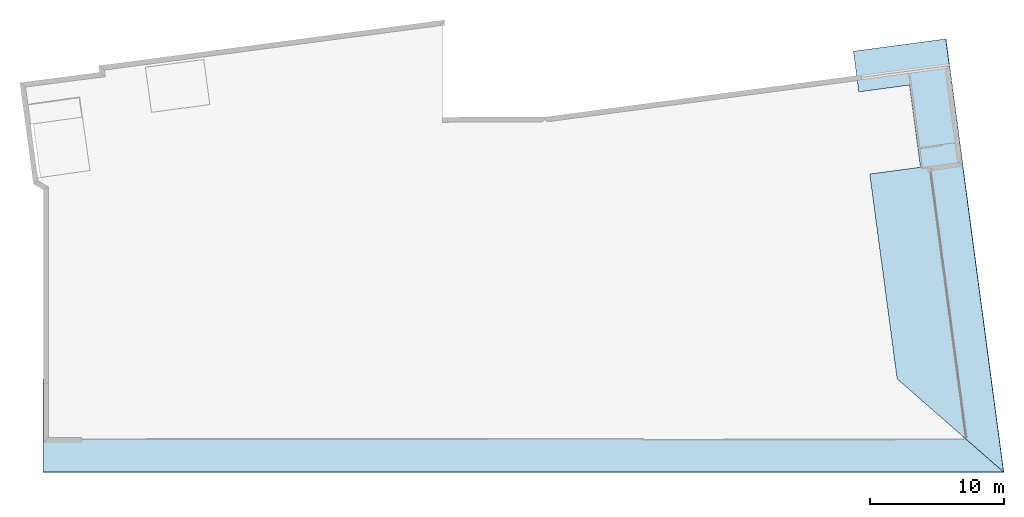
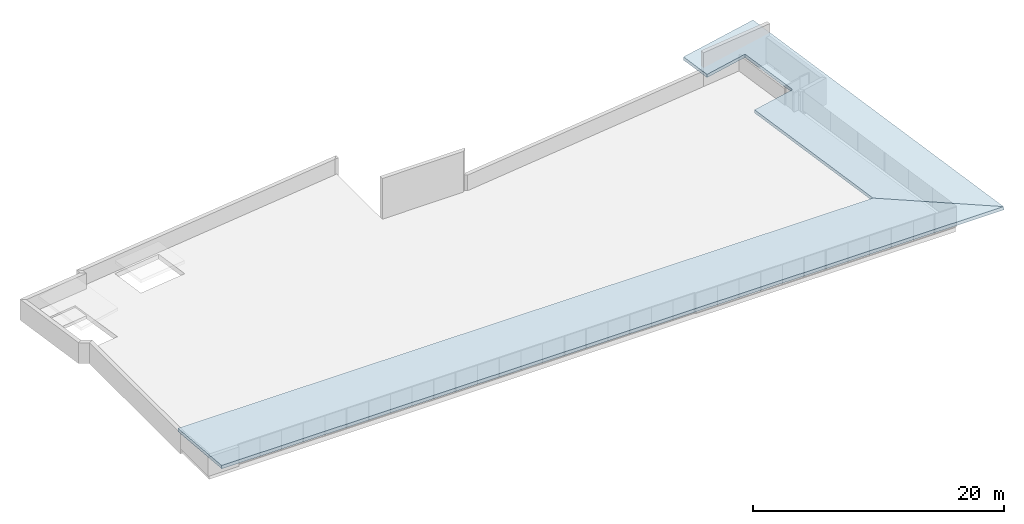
# One storey, part 4 of 7: 2 slabs.
"""IFC2X3 building model written with IfcOpenShell, lengths in metres."""

from ifc_helpers import new_model, entity, si_unit, converted_unit, money_unit, direction, frame, origin_with_axes, place, context, subcontext, project, spatial, faceted_brep, material, material_list, type_object, element, save


model = new_model("IFC2X3")

# Units and contexts
model_context = context("Model", 3, precision=1e-05, world=origin_with_axes(), true_north=direction((0.0, 1.0)))
body_context = subcontext(model_context, "Body", "Model", "MODEL_VIEW")
ifc_project = project(units=[si_unit("LENGTHUNIT", "METRE"), si_unit("AREAUNIT", "SQUARE_METRE"), si_unit("VOLUMEUNIT", "CUBIC_METRE"), converted_unit("PLANEANGLEUNIT", "DEGREE", entity("IfcPlaneAngleMeasure", 0.0174532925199), si_unit("PLANEANGLEUNIT", "RADIAN"), dimensions=[0, 0, 0, 0, 0, 0, 0]), si_unit("SOLIDANGLEUNIT", "STERADIAN"), money_unit("EUR"), converted_unit("TIMEUNIT", "Year", entity("IfcTimeMeasure", 31556926.0), si_unit("TIMEUNIT", "SECOND"), dimensions=[0, 0, 0, 0, 0, 0, 0]), si_unit("MASSUNIT", "GRAM"), si_unit("THERMODYNAMICTEMPERATUREUNIT", "DEGREE_CELSIUS"), si_unit("LUMINOUSINTENSITYUNIT", "LUMEN")], contexts=[model_context])

# Site, building, storey
site_placement = place(None, origin_with_axes())
site = spatial("IfcSite", under=ifc_project, at=site_placement, Name="Undefined", CompositionType="ELEMENT")
building_placement = place(site_placement, origin_with_axes())
building = spatial("IfcBuilding", under=site, at=building_placement, Name="Undefined", CompositionType="ELEMENT")
storey_placement = place(building_placement, frame((0.0, 0.0, 17.4), z_axis=(0.0, 0.0, 1.0), x_axis=(1.0, 0.0, 0.0)))
storey = spatial("IfcBuildingStorey", under=building, at=storey_placement, Name="Toiture", CompositionType="ELEMENT", Elevation=17.4)

# Slabs
ifc_material_1 = material(Name="Finition int - Enduit pl\x89tre")
ifc_material_2 = material(Name="Bois - OSB 01")
ifc_material_3 = material(Name="Toiture - Chevronnage & Laine de roche")
ifc_material_4 = material(Name="Etanch\x8eit\x8e - Pare pluie")
ifc_material_5 = material(Name="Divers - Vide")
ifc_material_6 = material(Name="Toiture - Tuile")
ifc_material_list = material_list([ifc_material_1, ifc_material_2, ifc_material_3, ifc_material_2, ifc_material_4, ifc_material_5, ifc_material_6])
slab_type = type_object("IfcSlabType", Name="7.2-Toiture: Couverture + panneaux sandwich 306", PredefinedType="ROOF")
slab_1_placement = place(storey_placement, frame((17.1691930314, -0.249999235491, 1.90207035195), z_axis=(0.0, 0.0, 1.0), x_axis=(1.0, 0.0, 0.0)))
element("IfcSlab", 1, at=slab_1_placement, inside=storey, type_object=slab_type, material=ifc_material_list, Name="Roof", ObjectType="ROOF", PredefinedType="ROOF", context=body_context, shape_type="Brep", body=[
    faceted_brep([(-17.5798430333, 4.57152976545, -0.0927881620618), (-17.5798430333, -2.39999970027, 0.517141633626), (54.2403826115, -2.39999970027, 0.517141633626), (46.2768642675, 4.57152976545, -0.0927881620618), (-17.5798430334, 4.56864885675, -0.152765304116), (-17.5798430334, -2.4052290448, 0.457369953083), (54.2463560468, -2.4052290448, 0.457369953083), (46.2801551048, 4.56864885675, -0.152765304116)], [[[0, 1, 2, 3]], [[0, 4, 5, 1]], [[1, 5, 6, 2]], [[2, 6, 7, 3]], [[3, 7, 4, 0]], [[4, 7, 6, 5]]]),
    faceted_brep([(46.2801551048, 4.56864885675, -0.152765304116), (46.2821296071, 4.56692031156, -0.188751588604), (-17.5798430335, 4.56692031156, -0.188751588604), (-17.5798430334, 4.56864885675, -0.152765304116), (54.2463560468, -2.4052290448, 0.457369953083), (54.2499401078, -2.40836665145, 0.4215069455), (-17.5798430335, -2.40836665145, 0.4215069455), (-17.5798430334, -2.4052290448, 0.457369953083)], [[[0, 1, 2, 3]], [[4, 5, 1, 0]], [[2, 1, 5, 6]], [[3, 2, 6, 7]], [[3, 7, 4, 0]], [[7, 6, 5, 4]]]),
    faceted_brep([(46.2821296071, 4.56692031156, -0.188751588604), (46.2824038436, 4.56668023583, -0.193749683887), (-17.5798430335, 4.56668023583, -0.193749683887), (-17.5798430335, 4.56692031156, -0.188751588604), (54.2499401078, -2.40836665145, 0.4215069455), (54.2504378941, -2.40880243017, 0.41652597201), (-17.5798430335, -2.40880243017, 0.41652597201), (-17.5798430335, -2.40836665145, 0.4215069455)], [[[0, 1, 2, 3]], [[4, 5, 1, 0]], [[2, 1, 5, 6]], [[3, 2, 6, 7]], [[3, 7, 4, 0]], [[7, 6, 5, 4]]]),
    faceted_brep([(46.2824038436, 4.56668023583, -0.193749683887), (46.2832265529, 4.56596000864, -0.208743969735), (-17.5798430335, 4.56596000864, -0.208743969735), (-17.5798430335, 4.56668023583, -0.193749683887), (54.2504378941, -2.40880243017, 0.41652597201), (54.251931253, -2.41010976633, 0.40158305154), (-17.5798430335, -2.41010976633, 0.40158305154), (-17.5798430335, -2.40880243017, 0.41652597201)], [[[0, 1, 2, 3]], [[4, 5, 1, 0]], [[2, 1, 5, 6]], [[3, 2, 6, 7]], [[3, 7, 4, 0]], [[7, 6, 5, 4]]]),
    faceted_brep([(46.2832265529, 4.56596000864, -0.208743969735), (46.2920021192, 4.55827758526, -0.368683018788), (-17.5798430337, 4.55827758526, -0.368683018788), (-17.5798430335, 4.56596000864, -0.208743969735), (54.251931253, -2.41010976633, 0.40158305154), (54.267860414, -2.42405468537, 0.242191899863), (-17.5798430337, -2.42405468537, 0.242191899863), (-17.5798430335, -2.41010976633, 0.40158305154)], [[[0, 1, 2, 3]], [[4, 5, 1, 0]], [[2, 1, 5, 6]], [[3, 2, 6, 7]], [[3, 7, 4, 0]], [[7, 6, 5, 4]]]),
    faceted_brep([(46.2920021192, 4.55827758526, -0.368683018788), (46.2928248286, 4.55755735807, -0.383677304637), (-17.5798430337, 4.55755735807, -0.383677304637), (-17.5798430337, 4.55827758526, -0.368683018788), (54.267860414, -2.42405468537, 0.242191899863), (54.2693537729, -2.42536202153, 0.227248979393), (-17.5798430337, -2.42536202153, 0.227248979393), (-17.5798430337, -2.42405468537, 0.242191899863)], [[[0, 1, 2, 3]], [[4, 5, 1, 0]], [[2, 1, 5, 6]], [[3, 2, 6, 7]], [[3, 7, 4, 0]], [[7, 6, 5, 4]]]),
    faceted_brep([(46.2928248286, 4.55755735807, -0.383677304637), (46.2936475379, 4.55683713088, -0.398671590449), (-17.5798430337, 4.55683713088, -0.398671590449), (-17.5798430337, 4.55755735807, -0.383677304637), (54.2693537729, -2.42536202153, 0.227248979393), (54.2708471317, -2.42666935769, 0.212306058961), (-17.5798430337, -2.42666935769, 0.212306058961), (-17.5798430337, -2.42536202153, 0.227248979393)], [[[0, 1, 2, 3]], [[4, 5, 1, 0]], [[1, 5, 6, 2]], [[3, 2, 6, 7]], [[3, 7, 4, 0]], [[7, 6, 5, 4]]]),
])
slab_2_placement = place(storey_placement, frame((63.447976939, 4.31985001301, 1.50225996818), z_axis=(0.0, 0.0, 1.0), x_axis=(-0.13225639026, 0.991215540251, 0.0)))
element("IfcSlab", 2, at=slab_2_placement, inside=storey, type_object=slab_type, material=ifc_material_list, Name="Roof", ObjectType="ROOF", PredefinedType="ROOF", context=body_context, shape_type="Brep", body=[
    faceted_brep([(24.7053769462, -6.96983545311, 0.916950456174), (24.7090931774, 0.0, 0.307168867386), (21.6429063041, 0.0, 0.307168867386), (21.6429063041, -3.82218417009, 0.641566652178), (15.4491384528, -3.82218417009, 0.641566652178), (15.4491384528, 0.0, 0.307168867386), (0.0, 0.0, 0.307168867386), (-7.96159489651, -6.96985329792, 0.916952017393), (24.7053769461, -6.97506479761, 0.85717877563), (24.7090959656, 0.0, 0.246939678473), (21.6429063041, 0.0, 0.246939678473), (21.6429063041, -3.82218417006, 0.581337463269), (15.4491384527, -3.82218417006, 0.581337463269), (15.4491384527, 0.0, 0.246939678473), (-2.78523515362e-09, 0.0, 0.246939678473), (-7.96756833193, -6.9750826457, 0.857180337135)], [[[0, 1, 2, 3, 4, 5, 6, 7]], [[0, 8, 9, 1]], [[1, 9, 10, 2]], [[2, 10, 11, 3]], [[3, 11, 12, 4]], [[4, 12, 13, 5]], [[5, 13, 14, 6]], [[6, 14, 15, 7]], [[7, 15, 8, 0]], [[8, 15, 14, 13, 12, 11, 10, 9]]]),
    faceted_brep([(-7.96756833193, -6.9750826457, 0.857180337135), (-7.97115239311, -6.97822025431, 0.821317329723), (24.7053769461, -6.97820240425, 0.821315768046), (24.7053769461, -6.97506479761, 0.85717877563), (-2.78523515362e-09, 0.0, 0.246939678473), (-4.45637748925e-09, 1.24686039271e-10, 0.210802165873), (15.4491384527, 1.24686039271e-10, 0.210802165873), (15.4491384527, -3.82218417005, 0.545199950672), (21.6429063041, -3.82218417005, 0.545199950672), (21.6429063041, 1.24686039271e-10, 0.210802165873), (24.7090976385, 1.24686039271e-10, 0.210802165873), (24.7090959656, 0.0, 0.246939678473), (21.6429063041, 0.0, 0.246939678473), (21.6429063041, -3.82218417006, 0.581337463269), (15.4491384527, -3.82218417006, 0.581337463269), (15.4491384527, 0.0, 0.246939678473)], [[[0, 1, 2, 3]], [[4, 5, 1, 0]], [[2, 1, 5, 6, 7, 8, 9, 10]], [[3, 2, 10, 11]], [[3, 11, 12, 13, 14, 15, 4, 0]], [[15, 6, 5, 4]], [[14, 7, 6, 15]], [[13, 8, 7, 14]], [[12, 9, 8, 13]], [[11, 10, 9, 12]]]),
    faceted_brep([(-7.97115239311, -6.97822025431, 0.821317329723), (-7.9716501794, -6.9786560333, 0.816336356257), (24.7053769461, -6.97863818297, 0.816334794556), (24.7053769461, -6.97820240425, 0.821315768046), (-4.45637837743e-09, 1.24686039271e-10, 0.210802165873), (-4.68848249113e-09, 1.31180399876e-10, 0.205783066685), (15.4491384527, 1.31180399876e-10, 0.205783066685), (15.4491384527, -3.82218417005, 0.540180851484), (21.642906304, -3.82218417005, 0.540180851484), (21.642906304, 1.31180399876e-10, 0.205783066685), (24.7090978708, 1.31180399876e-10, 0.205783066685), (24.7090976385, 1.24686039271e-10, 0.210802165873), (21.6429063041, 1.24686039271e-10, 0.210802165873), (21.6429063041, -3.82218417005, 0.545199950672), (15.4491384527, -3.82218417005, 0.545199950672), (15.4491384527, 1.24686039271e-10, 0.210802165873)], [[[0, 1, 2, 3]], [[4, 5, 1, 0]], [[2, 1, 5, 6, 7, 8, 9, 10]], [[3, 2, 10, 11]], [[3, 11, 12, 13, 14, 15, 4, 0]], [[15, 6, 5, 4]], [[14, 7, 6, 15]], [[13, 8, 7, 14]], [[12, 9, 8, 13]], [[11, 10, 9, 12]]]),
    faceted_brep([(-7.9716501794, -6.9786560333, 0.816336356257), (-7.97314353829, -6.97996337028, 0.801393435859), (24.7053769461, -6.97994551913, 0.801391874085), (24.7053769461, -6.97863818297, 0.816334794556), (-4.68848249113e-09, 1.31180399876e-10, 0.205783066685), (-5.38479039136e-09, 1.50663481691e-10, 0.19072576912), (15.4491384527, 1.50663481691e-10, 0.19072576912), (15.4491384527, -3.82218417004, 0.52512355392), (21.642906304, -3.82218417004, 0.52512355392), (21.642906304, 1.50670587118e-10, 0.19072576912), (24.7090985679, 1.50663481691e-10, 0.19072576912), (24.7090978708, 1.31180399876e-10, 0.205783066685), (21.642906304, 1.31180399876e-10, 0.205783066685), (21.642906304, -3.82218417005, 0.540180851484), (15.4491384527, -3.82218417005, 0.540180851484), (15.4491384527, 1.31180399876e-10, 0.205783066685)], [[[0, 1, 2, 3]], [[4, 5, 1, 0]], [[2, 1, 5, 6, 7, 8, 9, 10]], [[3, 2, 10, 11]], [[3, 11, 12, 13, 14, 15, 4, 0]], [[15, 6, 5, 4]], [[14, 7, 6, 15]], [[13, 8, 7, 14]], [[12, 9, 8, 13]], [[11, 10, 9, 12]]]),
    faceted_brep([(-7.97314353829, -6.97996337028, 0.801393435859), (-7.98907269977, -6.99390829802, 0.642002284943), (24.7053769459, -6.99389043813, 0.642000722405), (24.7053769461, -6.97994551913, 0.801391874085), (-5.38479039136e-09, 1.50663481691e-10, 0.19072576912), (-1.28120900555e-08, 3.58490126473e-10, 0.0301145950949), (15.4491384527, 3.58490126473e-10, 0.0301145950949), (15.4491384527, -3.82218416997, 0.364512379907), (21.642906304, -3.82218416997, 0.364512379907), (21.642906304, 3.58490126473e-10, 0.0301145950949), (24.709106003, 3.58490126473e-10, 0.0301145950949), (24.7090985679, 1.50663481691e-10, 0.19072576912), (21.642906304, 1.50670587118e-10, 0.19072576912), (21.642906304, -3.82218417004, 0.52512355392), (15.4491384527, -3.82218417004, 0.52512355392), (15.4491384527, 1.50663481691e-10, 0.19072576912)], [[[0, 1, 2, 3]], [[4, 5, 1, 0]], [[2, 1, 5, 6, 7, 8, 9, 10]], [[3, 2, 10, 11]], [[3, 11, 12, 13, 14, 15, 4, 0]], [[15, 6, 5, 4]], [[14, 7, 6, 15]], [[13, 8, 7, 14]], [[12, 9, 8, 13]], [[11, 10, 9, 12]]]),
    faceted_brep([(-4.77312905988, -4.6898515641, 0.425366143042), (-4.77312912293, -4.3348515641, 0.39430766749), (-4.77312912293, -4.3348515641, 0.409364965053), (-4.77312905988, -4.6898515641, 0.440423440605), (15.0619306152, -4.68984804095, 0.425365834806), (15.0876329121, -6.95934121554, 0.623920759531), (22.8458478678, -6.96696522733, 0.624587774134), (22.8608478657, -6.96697322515, 0.624588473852), (22.8634509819, -2.08479803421, 0.197453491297), (24.6330998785, -1.74395362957, 0.167633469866), (24.6189151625, -1.67030721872, 0.161190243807), (22.8634917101, -2.00841172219, 0.190770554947), (22.8637409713, -1.54091948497, 0.149870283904), (24.7082851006, -1.54091948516, 0.149870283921), (24.7053769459, -6.99519777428, 0.627057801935), (-7.99056605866, -6.995215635, 0.627059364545), (-1.3508398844e-08, 3.77973208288e-10, 0.0150572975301), (15.4491384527, 3.77973208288e-10, 0.0150572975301), (15.4491384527, -3.82218416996, 0.349455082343), (21.642906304, -3.82218416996, 0.349455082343), (21.642906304, 3.77980313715e-10, 0.0150572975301), (24.7091067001, 3.7796610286e-10, 0.0150572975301), (24.7083022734, -1.50871167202, 0.147052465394), (24.7045936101, -1.50450095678, 0.146684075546), (24.6852827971, -1.4890701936, 0.145334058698), (24.6635858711, -1.47722715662, 0.14429792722), (24.6401615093, -1.46933147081, 0.143607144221), (24.6176736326, -1.46591948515, 0.143308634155), (22.8637809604, -1.46591948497, 0.14330863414), (22.8643931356, -0.317777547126, 0.0428592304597), (22.5093931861, -0.317588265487, 0.0428426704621), (22.5087809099, -1.46591948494, 0.143308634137), (22.4937809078, -1.46591948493, 0.143308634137), (22.4937809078, -1.54091948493, 0.149870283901), (22.5087409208, -1.54091948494, 0.149870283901), (22.5060372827, -6.6116246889, 0.59349950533), (15.4386391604, -6.60468567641, 0.592892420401), (15.4149714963, -4.51484797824, 0.410055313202), (15.4129329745, -4.3348479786, 0.394307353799), (15.4129329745, -4.3348479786, 0.409364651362), (15.4149714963, -4.51484797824, 0.425112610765), (15.4386391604, -6.60468567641, 0.607949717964), (22.5060372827, -6.6116246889, 0.608556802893), (22.5087409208, -1.54091948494, 0.164927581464), (22.4937809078, -1.54091948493, 0.164927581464), (22.4937809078, -1.46591948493, 0.1583659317), (22.5087809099, -1.46591948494, 0.1583659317), (22.5093931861, -0.317588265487, 0.0578999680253), (22.8643931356, -0.317777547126, 0.0579165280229), (22.8637809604, -1.46591948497, 0.158365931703), (24.6176736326, -1.46591948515, 0.158365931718), (24.6401615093, -1.46933147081, 0.158664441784), (24.6635858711, -1.47722715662, 0.159355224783), (24.6852827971, -1.4890701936, 0.160391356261), (24.7045936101, -1.50450095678, 0.161741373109), (24.7083015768, -1.50871088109, 0.162109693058), (24.709106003, 3.58490126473e-10, 0.0301145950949), (21.642906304, 3.58490126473e-10, 0.0301145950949), (21.642906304, -3.82218416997, 0.364512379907), (15.4491384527, -3.82218416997, 0.364512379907), (15.4491384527, 3.58490126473e-10, 0.0301145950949), (-1.28120900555e-08, 3.58490126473e-10, 0.0301145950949), (-7.98907269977, -6.99390829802, 0.642002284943), (24.7053769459, -6.99389043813, 0.642000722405), (24.7082844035, -1.54091948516, 0.164927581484), (22.8637409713, -1.54091948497, 0.164927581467), (22.8634917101, -2.00841172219, 0.20582785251), (24.6189151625, -1.67030721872, 0.17624754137), (24.6330998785, -1.74395362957, 0.182690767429), (22.8634509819, -2.08479803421, 0.212510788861), (22.8608478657, -6.96697322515, 0.639645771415), (22.8458478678, -6.96696522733, 0.639645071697), (15.0876329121, -6.95934121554, 0.638978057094), (15.0619306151, -4.68984804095, 0.440423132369)], [[[0, 1, 2, 3]], [[1, 0, 4, 5, 6, 7, 8, 9, 10, 11, 12, 13, 14, 15, 16, 17, 18, 19, 20, 21, 22, 23, 24, 25, 26, 27, 28, 29, 30, 31, 32, 33, 34, 35, 36, 37, 38]], [[39, 2, 1, 38]], [[39, 40, 41, 42, 43, 44, 45, 46, 47, 48, 49, 50, 51, 52, 53, 54, 55, 56, 57, 58, 59, 60, 61, 62, 63, 64, 65, 66, 67, 68, 69, 70, 71, 72, 73, 3, 2]], [[3, 73, 4, 0]], [[4, 73, 72, 5]], [[71, 6, 5, 72]], [[6, 71, 70, 7]], [[70, 69, 8, 7]], [[8, 69, 68, 9]], [[68, 67, 10, 9]], [[66, 11, 10, 67]], [[11, 66, 65, 12]], [[12, 65, 64, 13]], [[13, 64, 63, 14]], [[62, 15, 14, 63]], [[61, 16, 15, 62]], [[60, 17, 16, 61]], [[59, 18, 17, 60]], [[58, 19, 18, 59]], [[57, 20, 19, 58]], [[56, 21, 20, 57]], [[55, 22, 21, 56]], [[22, 55, 54, 23]], [[54, 53, 24, 23]], [[53, 52, 25, 24]], [[52, 51, 26, 25]], [[51, 50, 27, 26]], [[49, 28, 27, 50]], [[28, 49, 48, 29]], [[47, 30, 29, 48]], [[47, 46, 31, 30]], [[31, 46, 45, 32]], [[45, 44, 33, 32]], [[43, 34, 33, 44]], [[43, 42, 35, 34]], [[35, 42, 41, 36]], [[40, 37, 36, 41]], [[37, 40, 39, 38]]]),
    faceted_brep([(-4.77312905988, -4.6898515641, 0.410308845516), (-4.7731291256, -4.3198515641, 0.377938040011), (-4.7731291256, -4.3198515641, 0.392995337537), (-4.77312905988, -4.6898515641, 0.425366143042), (15.0619306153, -4.68984804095, 0.41030853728), (15.0876329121, -6.95934121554, 0.608863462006), (22.8458478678, -6.96696522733, 0.609530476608), (22.8608478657, -6.96697322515, 0.609531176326), (22.8634509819, -2.08479803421, 0.182396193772), (24.6330998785, -1.74395362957, 0.15257617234), (24.6189151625, -1.67030721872, 0.146132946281), (22.8634917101, -2.00841172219, 0.175713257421), (22.8637409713, -1.54091948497, 0.134812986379), (24.7082857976, -1.54091948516, 0.134812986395), (24.7053769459, -6.99650511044, 0.612114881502), (-7.99205941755, -6.99652297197, 0.612116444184), (-1.42047076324e-08, 3.97456290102e-10, 0.0), (15.4491384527, 3.97456290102e-10, 0.0), (15.4491384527, -3.82218416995, 0.334397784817), (21.6429063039, -3.82218416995, 0.334397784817), (21.6429063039, 3.97456290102e-10, 0.0), (24.7091073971, 3.97449184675e-10, 0.0), (24.70830297, -1.50871246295, 0.131995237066), (24.7045936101, -1.50450095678, 0.13162677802), (24.6852827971, -1.4890701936, 0.130276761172), (24.6635858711, -1.47722715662, 0.129240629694), (24.6401615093, -1.46933147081, 0.128549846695), (24.6176736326, -1.46591948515, 0.12825133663), (22.8637809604, -1.46591948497, 0.128251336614), (22.8643931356, -0.317777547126, 0.027801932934), (22.5093931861, -0.317588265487, 0.0277853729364), (22.5093721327, -0.357075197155, 0.0312400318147), (22.49437213, -0.357075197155, 0.0312400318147), (22.4932568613, -2.44877476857, 0.214240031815), (22.5082568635, -2.44877476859, 0.214240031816), (22.5082050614, -2.54593021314, 0.222740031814), (22.4932050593, -2.54593021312, 0.222740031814), (22.4924982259, -3.87160450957, 0.338721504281), (22.5074982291, -3.87160253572, 0.33872133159), (22.5074449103, -3.97160252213, 0.347470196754), (22.4924449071, -3.97160449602, 0.347470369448), (22.4910452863, -6.59660996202, 0.577128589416), (15.4534704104, -6.58970023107, 0.576524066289), (15.4279339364, -4.33484797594, 0.37925005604), (15.4277640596, -4.31984797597, 0.37793772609), (15.4277640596, -4.31984797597, 0.392995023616), (15.4279339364, -4.33484797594, 0.394307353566), (15.4534704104, -6.58970023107, 0.591581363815), (22.4910452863, -6.59660996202, 0.592185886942), (22.4924449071, -3.97160449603, 0.362527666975), (22.5074449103, -3.97160252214, 0.362527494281), (22.5074982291, -3.87160253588, 0.353778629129), (22.4924982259, -3.87160450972, 0.35377880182), (22.4932968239, -2.37382451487, 0.222740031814), (22.508296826, -2.37382451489, 0.222740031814), (22.5083486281, -2.27666907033, 0.214240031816), (22.493348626, -2.27666907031, 0.214240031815), (22.4943931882, -0.317580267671, 0.0428419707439), (22.8643931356, -0.317777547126, 0.0428592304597), (22.8637809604, -1.46591948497, 0.14330863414), (24.6176736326, -1.46591948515, 0.143308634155), (24.6401615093, -1.46933147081, 0.143607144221), (24.6635858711, -1.47722715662, 0.14429792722), (24.6852827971, -1.4890701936, 0.145334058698), (24.7045936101, -1.50450095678, 0.146684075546), (24.7083022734, -1.50871167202, 0.147052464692), (24.7091067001, 3.7796610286e-10, 0.0150572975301), (21.642906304, 3.77973208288e-10, 0.0150572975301), (21.642906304, -3.82218416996, 0.349455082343), (15.4491384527, -3.82218416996, 0.349455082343), (15.4491384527, 3.77973208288e-10, 0.0150572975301), (-1.3508398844e-08, 3.77980313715e-10, 0.0150572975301), (-7.99056605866, -6.995215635, 0.627059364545), (24.7053769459, -6.99519777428, 0.627057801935), (24.7082851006, -1.54091948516, 0.149870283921), (22.8637409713, -1.54091948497, 0.149870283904), (22.8634917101, -2.00841172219, 0.190770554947), (24.6189151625, -1.67030721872, 0.161190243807), (24.6330998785, -1.74395362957, 0.167633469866), (22.8634509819, -2.08479803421, 0.197453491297), (22.8608478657, -6.96697322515, 0.624588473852), (22.8458478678, -6.96696522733, 0.624587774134), (15.0876329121, -6.95934121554, 0.623920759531), (15.0619306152, -4.68984804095, 0.425365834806), (22.4943931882, -0.317580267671, 0.0312400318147), (22.5093931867, -0.317588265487, 0.0312400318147)], [[[0, 1, 2, 3]], [[1, 0, 4, 5, 6, 7, 8, 9, 10, 11, 12, 13, 14, 15, 16, 17, 18, 19, 20, 21, 22, 23, 24, 25, 26, 27, 28, 29, 30, 31, 32, 33, 34, 35, 36, 37, 38, 39, 40, 41, 42, 43, 44]], [[45, 2, 1, 44]], [[45, 46, 47, 48, 49, 50, 51, 52, 53, 54, 55, 56, 57, 58, 59, 60, 61, 62, 63, 64, 65, 66, 67, 68, 69, 70, 71, 72, 73, 74, 75, 76, 77, 78, 79, 80, 81, 82, 83, 3, 2]], [[3, 83, 4, 0]], [[4, 83, 82, 5]], [[81, 6, 5, 82]], [[6, 81, 80, 7]], [[80, 79, 8, 7]], [[8, 79, 78, 9]], [[78, 77, 10, 9]], [[76, 11, 10, 77]], [[11, 76, 75, 12]], [[12, 75, 74, 13]], [[13, 74, 73, 14]], [[72, 15, 14, 73]], [[71, 16, 15, 72]], [[70, 17, 16, 71]], [[69, 18, 17, 70]], [[68, 19, 18, 69]], [[67, 20, 19, 68]], [[66, 21, 20, 67]], [[65, 22, 21, 66]], [[22, 65, 64, 23]], [[64, 63, 24, 23]], [[63, 62, 25, 24]], [[62, 61, 26, 25]], [[61, 60, 27, 26]], [[59, 28, 27, 60]], [[28, 59, 58, 29]], [[57, 84, 85, 30, 29, 58]], [[85, 31, 30]], [[32, 31, 85, 84]], [[56, 33, 32, 84, 57]], [[34, 33, 56, 55]], [[54, 35, 34, 55]], [[36, 35, 54, 53]], [[53, 52, 37, 36]], [[52, 51, 38, 37]], [[50, 39, 38, 51]], [[50, 49, 40, 39]], [[49, 48, 41, 40]], [[41, 48, 47, 42]], [[46, 43, 42, 47]], [[43, 46, 45, 44]]]),
])

save(model, "model.ifc")
